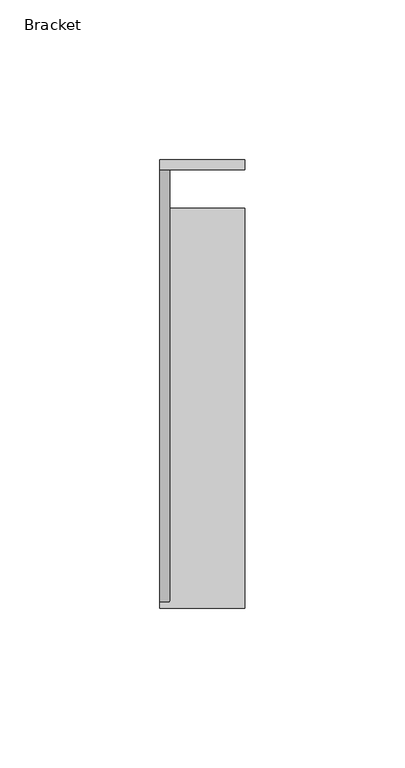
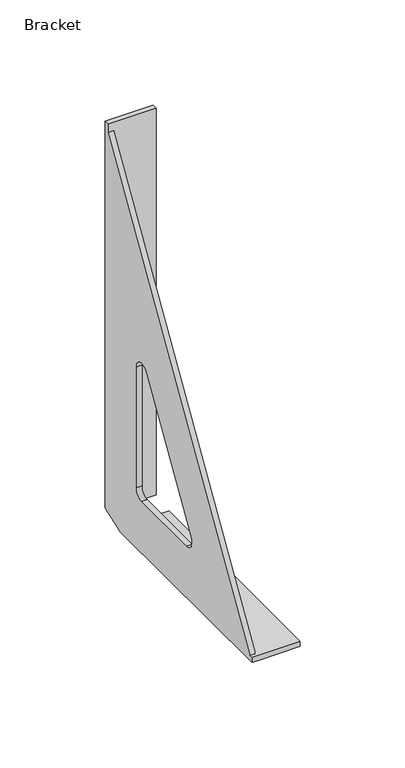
"""IFC4 building model written with IfcOpenShell, lengths in millimetres: furniture geometry, X_Bench-Bracket-Duracube-Shelving : Bracket."""

from ifc_helpers import new_model, si_unit, frame, origin, place, context, project, spatial, polyline, circle_curve, source, transform, mapped, element, save
from ifc_brep_helpers import plane_surface, revolved_surface, advanced_brep


def bracket_7d752e66(model_context):
    return source(origin(), model_context, "Body", "AdvancedBrep", [
        advanced_brep(
        [(-13.25, -70.0, 3.0), (13.25, -70.0, 3.0), (13.25, 55.0, 3.0), (-10.25, 55.0, 3.0), (-10.25, -68.173913, 3.0), (-13.25, -68.173913, 3.0), (13.25, 55.0, 0.0), (13.25, -70.0, 0.0), (-10.25, -70.0, 0.0), (-13.25, -70.0, 0.0), (-13.25, 55.0, 0.0), (-10.25, 55.0, 0.0), (-13.25, 67.0, 225.0714286), (-13.25, 67.0, 230.0), (-13.25, 70.0, 230.0), (-13.25, 70.0, 5.0), (-13.25, 40.0, 105.1854399), (-13.25, 30.7290072, 107.7851746), (-13.25, -11.9925649, 37.5997347), (-13.25, -7.7215721, 30.0), (-13.25, 35.0, 30.0), (-13.25, 40.0, 35.0), (-10.25, 70.0, 5.0), (-10.25, 67.0, 5.0), (-10.25, 67.0, 225.0714286), (-10.25, 40.0, 105.1854399), (-10.25, 40.0, 35.0), (-10.25, 35.0, 30.0), (-10.25, -7.7215721, 30.0), (-10.25, -11.9925649, 37.5997347), (-10.25, 30.7290072, 107.7851746), (13.25, 70.0, 230.0), (13.25, 70.0, 5.0), (13.25, 67.0, 5.0), (13.25, 67.0, 230.0)],
        [
            (0, 1),
            (1, 2),
            (2, 3),
            (3, 4),
            (4, 5),
            (5, 0),
            (6, 7),
            (7, 8),
            (8, 9),
            (9, 10),
            (10, 11),
            (11, 6),
            (2, 6),
            (11, 3),
            (9, 0),
            (5, 12),
            (12, 13),
            (13, 14),
            (14, 15),
            (15, 10),
            (16, 17, circle_curve(frame((-13.25, 35.0, 105.1854399), z_axis=(1.0, 0.0, 0.0), x_axis=(0.0, 1.0, 0.0)), 5.0)),
            (17, 18),
            (18, 19, circle_curve(frame((-13.25, -7.7215721, 35.0), z_axis=(1.0, 0.0, 0.0), x_axis=(0.0, 1.0, 0.0)), 5.0)),
            (19, 20),
            (20, 21, circle_curve(frame((-13.25, 35.0, 35.0), z_axis=(1.0, 0.0, 0.0), x_axis=(0.0, 1.0, 0.0)), 5.0)),
            (21, 16),
            (7, 1),
            (11, 22),
            (22, 23),
            (23, 24),
            (24, 4),
            (25, 26),
            (26, 27, circle_curve(frame((-10.25, 35.0, 35.0), z_axis=(-1.0, 0.0, 0.0), x_axis=(0.0, 1.0, 0.0)), 5.0)),
            (27, 28),
            (28, 29, circle_curve(frame((-10.25, -7.7215721, 35.0), z_axis=(-1.0, 0.0, 0.0), x_axis=(0.0, 1.0, 0.0)), 5.0)),
            (29, 30),
            (30, 25, circle_curve(frame((-10.25, 35.0, 105.1854399), z_axis=(-1.0, 0.0, 0.0), x_axis=(0.0, 1.0, 0.0)), 5.0)),
            (14, 31),
            (31, 32),
            (32, 22),
            (22, 15),
            (24, 12),
            (33, 34),
            (34, 13),
            (23, 33),
            (32, 33),
            (31, 34),
            (25, 16),
            (21, 26),
            (20, 27),
            (19, 28),
            (18, 29),
            (17, 30),
        ],
        [
            plane_surface(frame((-10.25, 55.0, 3.0), z_axis=(0.0, 0.0, 1.0), x_axis=(-1.0, 0.0, 0.0))),
            plane_surface(frame((-10.25, 55.0, 0.0), z_axis=(0.0, 0.0, -1.0), x_axis=(1.0, 0.0, 0.0))),
            plane_surface(frame((13.25, 55.0, 3.0), z_axis=(0.0, 1.0, 0.0), x_axis=(0.0, 0.0, -1.0))),
            plane_surface(frame((-13.25, 55.0, 3.0), z_axis=(-1.0, 0.0, 0.0), x_axis=(0.0, 0.0, -1.0))),
            plane_surface(frame((-13.25, -70.0, 3.0), z_axis=(0.0, -1.0, 0.0), x_axis=(0.0, 0.0, -1.0))),
            plane_surface(frame((13.25, -70.0, 3.0), z_axis=(1.0, 0.0, 0.0), x_axis=(0.0, 0.0, -1.0))),
            plane_surface(frame((-10.25, -70.0, 0.0), z_axis=(1.0, 0.0, 0.0), x_axis=(0.0, -0.5199469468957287, -0.8541985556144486))),
            plane_surface(frame((-10.25, 70.0, 5.0), z_axis=(0.0, 1.0, 0.0), x_axis=(-1.0, 0.0, 0.0))),
            plane_surface(frame((-10.25, 70.0, 230.0), z_axis=(0.0, -0.8541985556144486, 0.5199469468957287), x_axis=(-1.0, 0.0, 0.0))),
            plane_surface(frame((-13.25, 67.0, 190.0), z_axis=(0.0, -1.0, 0.0), x_axis=(0.0, 0.0, -1.0))),
            plane_surface(frame((-13.25, 67.0, 5.0), z_axis=(0.0, 0.0, -1.0), x_axis=(0.0, 1.0, 0.0))),
            plane_surface(frame((13.25, 67.0, 5.0), z_axis=(1.0, 0.0, 0.0), x_axis=(0.0, 1.0, 0.0))),
            plane_surface(frame((13.25, 67.0, 230.0), z_axis=(0.0, 0.0, 1.0), x_axis=(0.0, 1.0, 0.0))),
            plane_surface(frame((-10.25, 55.0, 0.0), z_axis=(0.0, 0.3162277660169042, -0.9486832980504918), x_axis=(-1.0, 0.0, 0.0))),
            plane_surface(frame((-10.25, 40.0, 105.1854399), z_axis=(0.0, -1.0, 0.0), x_axis=(-1.0, 0.0, 0.0))),
            revolved_surface(polyline([(-13.25, 40.0, 35.0), (-10.25, 40.0, 35.0)]), (0.0, 35.0, 35.0), (-1.0, 0.0, 0.0)),
            plane_surface(frame((-10.25, 35.0, 30.0), z_axis=(0.0, 0.0, 1.0), x_axis=(-1.0, 0.0, 0.0))),
            revolved_surface(polyline([(-13.25, -2.7215721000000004, 35.0), (-10.25, -2.7215721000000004, 35.0)]), (0.0, -7.7215721, 35.0), (-1.0, 0.0, 0.0)),
            plane_surface(frame((-10.25, -11.9925649, 37.5997347), z_axis=(0.0, 0.8541985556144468, -0.5199469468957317), x_axis=(-1.0, 0.0, 0.0))),
            revolved_surface(polyline([(-13.25, 40.0, 105.1854399), (-10.25, 40.0, 105.1854399)]), (0.0, 35.0, 105.1854399), (-1.0, 0.0, 0.0)),
        ],
        [
            (0, [[1, 2, 3, 4, 5, 6]]),
            (1, [[7, 8, 9, 10, 11, 12]]),
            (2, [[13, -12, 14, -3]]),
            (3, [[-10, 15, -6, 16, 17, 18, 19, 20], [21, 22, 23, 24, 25, 26]]),
            (4, [[-1, -15, -9, -8, 27]]),
            (5, [[-2, -27, -7, -13]]),
            (6, [[28, 29, 30, 31, -4, -14], [32, 33, 34, 35, 36, 37]]),
            (7, [[-19, 38, 39, 40, 41]]),
            (8, [[-5, -31, 42, -16]]),
            (9, [[43, 44, -17, -42, -30, 45]]),
            (10, [[46, -45, -29, -40]]),
            (11, [[-43, -46, -39, 47]]),
            (12, [[-44, -47, -38, -18]]),
            (13, [[-28, -11, -20, -41]]),
            (14, [[-32, 48, -26, 49]]),
            (15, [[-33, -49, -25, 50]]),
            (16, [[-34, -50, -24, 51]]),
            (17, [[-35, -51, -23, 52]]),
            (18, [[-36, -52, -22, 53]]),
            (19, [[-37, -53, -21, -48]]),
        ],
    ),
    ])


if __name__ == "__main__":
    model = new_model("IFC4")
    model_context = context("Model", 3, world=origin())
    ifc_project = project(units=[si_unit("LENGTHUNIT", "METRE", prefix="MILLI")], contexts=[model_context])
    site = spatial("IfcSite", under=ifc_project)
    building = spatial("IfcBuilding", under=site)
    placement = place(None, origin())
    bracket_shape = bracket_7d752e66(model_context)
    element("IfcFurniture", 1, ObjectType="X_Bench-Bracket-Duracube-Shelving : Bracket", at=placement, inside=building, context=model_context, shape_type="MappedRepresentation", body=[
        mapped(bracket_shape, transform((0.0, 0.0, 0.0), x_axis=(1.0, 0.0, 0.0), y_axis=(0.0, 1.0, 0.0), z_axis=(0.0, 0.0, 1.0))),
    ])
    save(model, "model.ifc")
